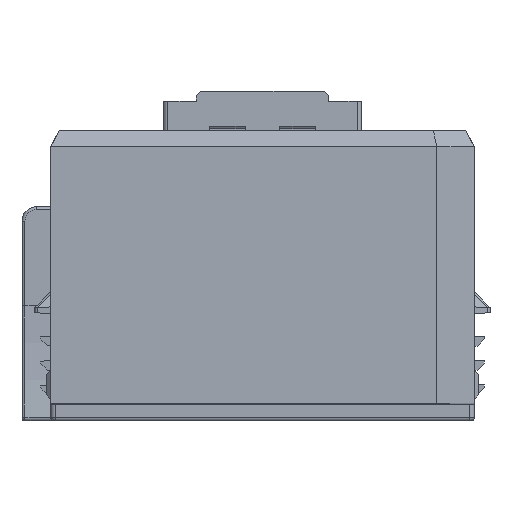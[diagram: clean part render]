
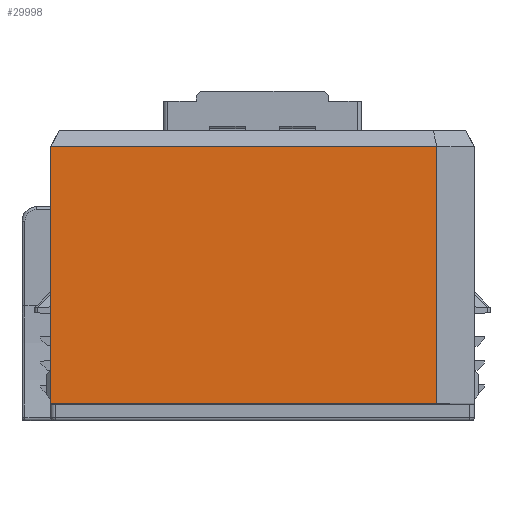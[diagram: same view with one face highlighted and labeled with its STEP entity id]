
A CAD part, front view. The second image highlights one B-rep face of the part: STEP entity #29998.
In plain terms, the highlighted planar face has unit normal (0, -1, 0).
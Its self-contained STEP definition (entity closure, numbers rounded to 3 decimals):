
#1579=DIRECTION('',(0.,0.,-1.));
#1580=VECTOR('',#1579,17.913);
#1581=CARTESIAN_POINT('',(-14.75,-26.,19.1));
#1582=LINE('',#1581,#1580);
#2401=DIRECTION('',(0.,0.,-1.));
#2402=VECTOR('',#2401,17.913);
#2403=CARTESIAN_POINT('',(12.15,-26.,19.1));
#2404=LINE('',#2403,#2402);
#2405=DIRECTION('',(-1.,0.,0.));
#2406=VECTOR('',#2405,26.9);
#2407=CARTESIAN_POINT('',(12.15,-26.,1.187));
#2408=LINE('',#2407,#2406);
#2409=DIRECTION('',(1.,0.,0.));
#2410=VECTOR('',#2409,26.9);
#2411=CARTESIAN_POINT('',(-14.75,-26.,19.1));
#2412=LINE('',#2411,#2410);
#20294=CARTESIAN_POINT('',(-14.75,-26.,19.1));
#20295=CARTESIAN_POINT('',(12.15,-26.,19.1));
#20296=VERTEX_POINT('',#20294);
#20297=VERTEX_POINT('',#20295);
#20960=CARTESIAN_POINT('',(-14.75,-26.,1.187));
#20961=VERTEX_POINT('',#20960);
#25335=CARTESIAN_POINT('',(12.15,-26.,1.187));
#25336=VERTEX_POINT('',#25335);
#29987=CARTESIAN_POINT('',(-14.75,-26.,0.));
#29988=DIRECTION('',(0.,-1.,0.));
#29989=DIRECTION('',(1.,0.,0.));
#29990=AXIS2_PLACEMENT_3D('',#29987,#29988,#29989);
#29991=PLANE('',#29990);
#29992=ORIENTED_EDGE('',*,*,#28424,.T.);
#29993=ORIENTED_EDGE('',*,*,#28453,.T.);
#29994=ORIENTED_EDGE('',*,*,#28848,.F.);
#29995=ORIENTED_EDGE('',*,*,#29971,.T.);
#29996=EDGE_LOOP('',(#29992,#29993,#29994,#29995));
#29997=FACE_OUTER_BOUND('',#29996,.F.);
#29998=ADVANCED_FACE('',(#29997),#29991,.T.);
#28424=EDGE_CURVE('',#20297,#25336,#2404,.T.);
#28453=EDGE_CURVE('',#25336,#20961,#2408,.T.);
#28848=EDGE_CURVE('',#20296,#20961,#1582,.T.);
#29971=EDGE_CURVE('',#20296,#20297,#2412,.T.);
